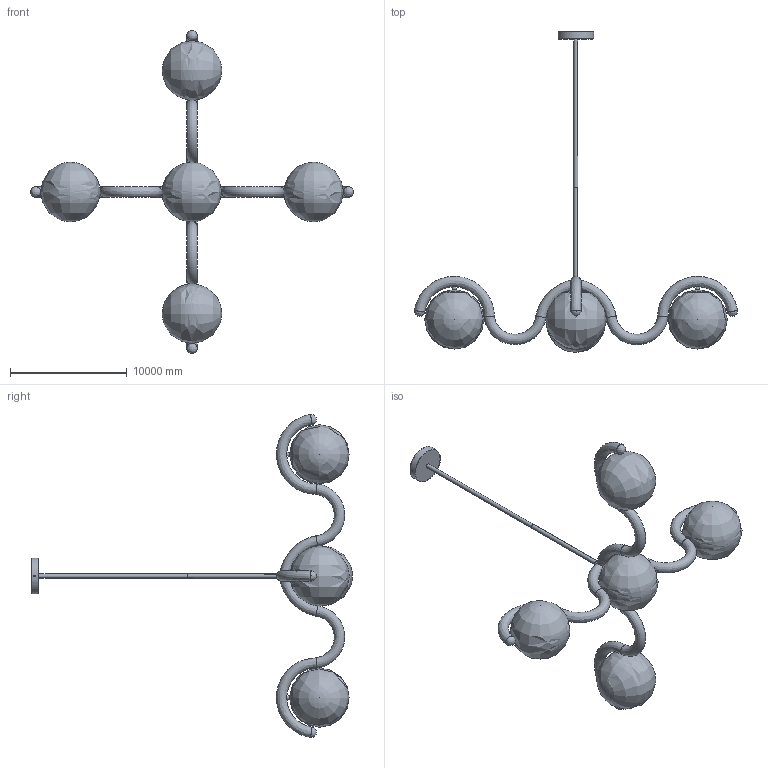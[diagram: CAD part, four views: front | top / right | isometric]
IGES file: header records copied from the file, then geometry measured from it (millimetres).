
Global section: file name: Lenox Chandelier-5heads; native system: AutoCAD 2022 - 简体中文 (Simplified Chinese),62HAuto; preprocessor: desk Translation Framework DWG producer (atf_dwg_producer); organization: unknown; date: 20251116.101927; units: inch
Bounding box: 27619.43 x 27429.59 x 27619.43 mm (x, y, z)
Volume: 401405514362.2 mm3; surface area: 806664765 mm2
Topology: 24 solids, 24 shells, 288 faces, 798 edges, 559 vertices
Faces by surface type: bspline 288
